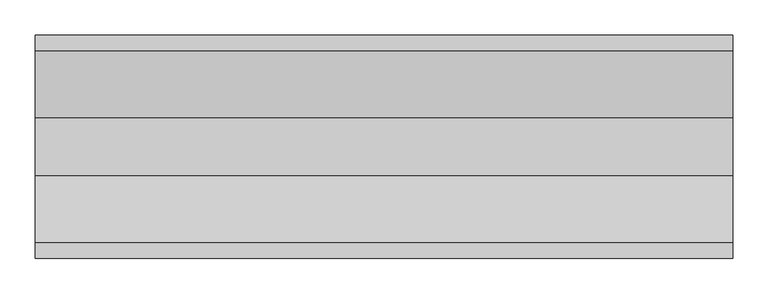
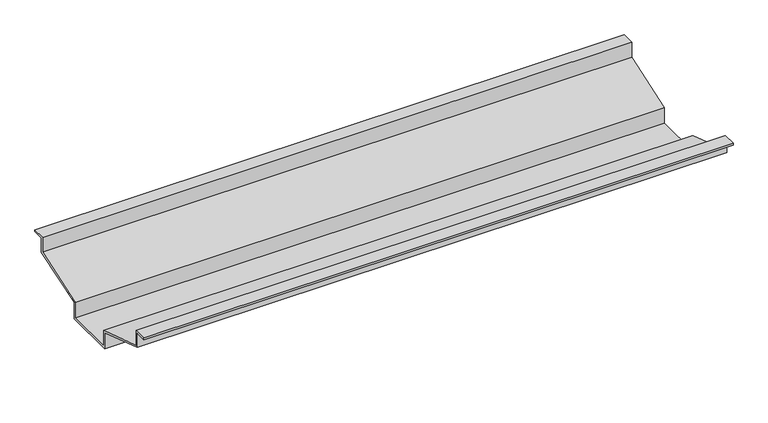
"""IFC4 building model written with IfcOpenShell, lengths in millimetres: furniture geometry."""

from ifc_helpers import new_model, si_unit, frame, origin, place, context, project, spatial, polyline, outline, extrude, source, transform, mapped, element, save


def furniture_df6beef7(model_context):
    return source(origin(), model_context, "Body", "SweptSolid", [
        extrude(outline(polyline([(-123.825, 1054.1), (-123.825, 1027.8134105), (-28.575, 996.0634105), (-28.575, 968.375), (53.975, 968.375), (53.975, 996.0634105), (149.225, 1027.8134105), (149.225, 1054.1), (171.45, 1054.1), (171.45, 1050.925), (152.4, 1050.925), (152.4, 1025.525), (57.15, 993.775), (57.15, 965.2), (-31.75, 965.2), (-31.75, 993.775), (-127.0, 1025.525), (-127.0, 1050.925), (-146.05, 1050.925), (-146.05, 1054.1), (-123.825, 1054.1)])), frame((-495.3, 0.0, 0.0), z_axis=(1.0, 0.0, 0.0), x_axis=(0.0, 1.0, 0.0)), (0.0, 0.0, 1.0), 990.6),
    ])


if __name__ == "__main__":
    model = new_model("IFC4")
    model_context = context("Model", 3, world=origin())
    ifc_project = project(units=[si_unit("LENGTHUNIT", "METRE", prefix="MILLI")], contexts=[model_context])
    site = spatial("IfcSite", under=ifc_project)
    building = spatial("IfcBuilding", under=site)
    placement = place(None, origin())
    furniture_shape = furniture_df6beef7(model_context)
    element("IfcFurniture", 1, ObjectType="HermanMiller_Ethospace_E2827_CounterTopSupport : 48\"W W/Light", at=placement, inside=building, context=model_context, shape_type="MappedRepresentation", body=[
        mapped(furniture_shape, transform((0.0, 0.0, 0.0), x_axis=(1.0, 0.0, 0.0), y_axis=(0.0, 1.0, 0.0), z_axis=(0.0, 0.0, 1.0))),
    ])
    save(model, "model.ifc")
